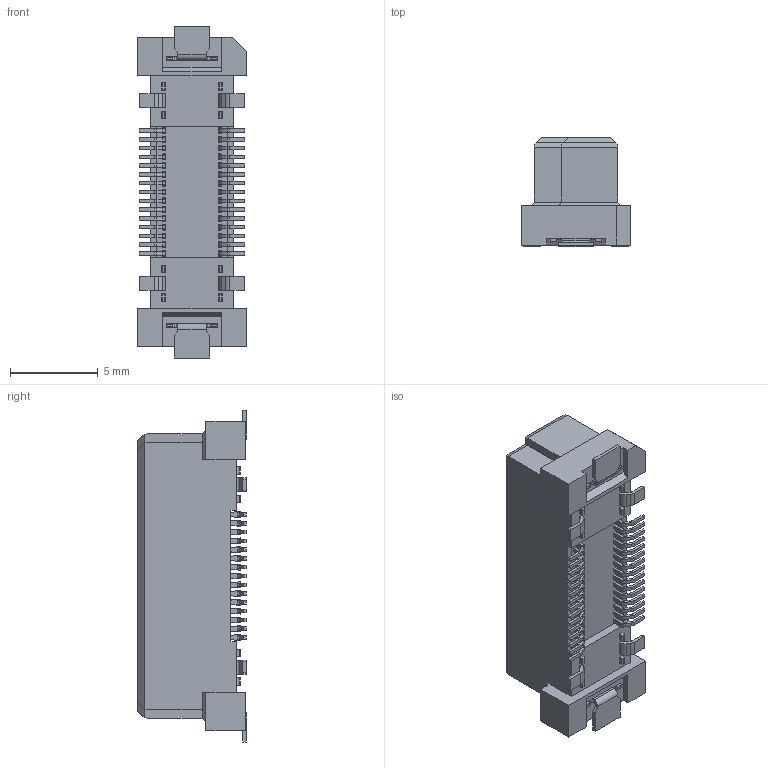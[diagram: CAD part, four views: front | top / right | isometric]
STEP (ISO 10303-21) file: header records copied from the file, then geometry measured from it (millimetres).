
FILE_DESCRIPTION(('Creo Elements/Direct Modeling STEP Export'),'2;1');
FILE_NAME('P3E603_DT10E-030S-8-T.stp','2024-03-12T15:16:17',(''),(''),'Creo Elements/Direct Modeling STEP processor for AP214 (Solid Model)','Creo Elements/Direct Modeling 20.6 25-Mar-2023 (C) Parametric Technology GmbH','');
FILE_SCHEMA(('AUTOMOTIVE_DESIGN { 1 0 10303 214 1 1 1 1 }'));
Products named in the file (1): P3E603_DT10E-030S-8-T
Bounding box: 6.2 x 6.18 x 18.9 mm (x, y, z)
Volume: 388 mm3; surface area: 640.2 mm2
Topology: 1 solids, 1 shells, 1613 faces, 4388 edges, 2822 vertices
Faces by surface type: plane 1253, cylinder 262, bspline 68, torus 30
Entity records: 57735 total; most frequent: CARTESIAN_POINT 16713, ORIENTED_EDGE 8776, DIRECTION 7962, EDGE_CURVE 4388, VECTOR 3434, LINE 3434, VERTEX_POINT 2822, AXIS2_PLACEMENT_3D 2264
